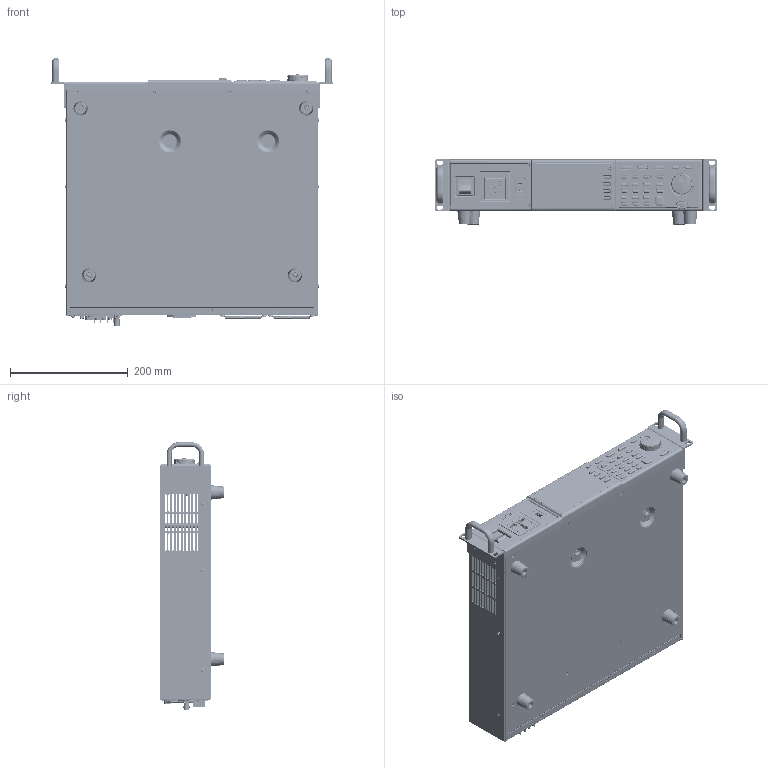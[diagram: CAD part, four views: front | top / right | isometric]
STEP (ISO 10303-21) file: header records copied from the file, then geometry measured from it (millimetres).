
FILE_DESCRIPTION((''),'2;1');
FILE_NAME('APS-500W_ASM','2019-03-26T16:59:05',('benny_chen'),(''),'CREO PARAMETRIC BY PTC INC, 2018100','CREO PARAMETRIC BY PTC INC, 2018100','');
FILE_SCHEMA(('CONFIG_CONTROL_DESIGN'));
Products named in the file (93): APS-500W_SKEL0001; APS-500W_SKEL0002; APS-1000W_FRONT_ASM_SKEL; ACSP-F-HP; S-M4-1_NUT; SO-M3-3L; SO-M3-4; SO-M3-S5; 62PS-7K0FP1B1-4_ASM; APS-HP-SOCKET_RG-02; 62PS-7K0FP2B1-2_ASM; 62PS-7K0FP1B1-3; APS-HP-SOCKET-BSF-R4_T1; 62PS-7K0FP1B1-2_ASM; 62PS-7K0FP1B1-1_ASM; LCD-PH-07008-002; APS-LCD-HOLD-3; 62PS-7K0HP301_ASM; 57RG-20B04001; 57RG-20B03901; APS-1000W_LCD_ASM_ASM; ENCODE_SW-NOBLE; APS-PCB-KEYBOARD_ASM; 3610-02000101-BSF-R4S-FRAME; 3610-02000101-BSF-R4S; 3610-02000101-GWT_ASM; APS-HP-A116-1229-USB01; 62PS-7K0HP101_ASM; FRP10; A116-1229-USB01; SCREW-4-40-8D3L; APS-USB-GND-HP_ASM; 3203-01200601; APS-F_ASM; APS-1000W_FRAME-A; TONGDING-5D5XM3X5L; 63FP-AG112801_ASM; 5005-350G0101; 57RB-40G11301; APS-1000W_MODEL_NP-A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
Assembly tree (180 placements, depth 6):
  APS-500W_ASM
    APS-500W_SKEL0001
    APS-500W_SKEL0002
    APS-1000W_FRONT_ASM_ASM
      APS-1000W_FRONT_ASM_SKEL
      APS-F_ASM
        62PS-7K0FP1B1-1_ASM
          62PS-7K0FP1B1-4_ASM
            ACSP-F-HP
            S-M4-1_NUT  x4
            SO-M3-3L  x2
            SO-M3-4  x10
            SO-M3-S5  x2
          62PS-7K0FP2B1-2_ASM
            APS-HP-SOCKET_RG-02
          62PS-7K0FP1B1-3
          62PS-7K0FP1B1-2_ASM
            APS-HP-SOCKET-BSF-R4_T1
        APS-1000W_LCD_ASM_ASM
          LCD-PH-07008-002
          62PS-7K0HP301_ASM
            APS-LCD-HOLD-3
          57RG-20B04001  x2
          57RG-20B03901  x2
        APS-PCB-KEYBOARD_ASM
          ENCODE_SW-NOBLE
        3610-02000101-GWT_ASM
          3610-02000101-BSF-R4S-FRAME
          3610-02000101-BSF-R4S
        APS-USB-GND-HP_ASM
          62PS-7K0HP101_ASM
            APS-HP-A116-1229-USB01
          FRP10  x2
          A116-1229-USB01
          SCREW-4-40-8D3L  x2
        3203-01200601
      63FP-AG112801_ASM
        APS-1000W_FRAME-A
        TONGDING-5D5XM3X5L  x8
      5005-350G0101
      57RB-40G11301
      APS-1000W_MODEL_NP-A
    APS-500W-LO-ASM_ASM
      62PS-705LO101-1_ASM
        62PS-705LO101-2_ASM
          APS-500W-HP-LO
          S-M4-1_NUT  x4
          FH-M4-12  x2
        62PS-710LO101-4
        62PS-705LO101-3_ASM
          62PS-705LO101-3
      APS7000-EMI_OUT_ASM
        APS-DT-66-C11W-XX_3PIN
      APS-PCB-ANALOG_ASM
        RJ-45
        BNC-PCBTYPE-M
        CONNECTOR_A-DIO-FS03
        ECH350RM-04P
      61PF-084220N1  x2
      APS-SCREW-M8XP1D25X80L  x2
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Bounding box: 479.4 x 110.44 x 454.7 mm (x, y, z)
Volume: 1225785.6 mm3; surface area: 1673031.8 mm2
Topology: 162 solids, 187 shells, 13899 faces, 35130 edges, 21991 vertices
Faces by surface type: plane 7031, cylinder 3636, bspline 1406, cone 1061, torus 517, extrusion 141, sphere 106, revolution 1
Entity records: 313419 total; most frequent: CARTESIAN_POINT 92375, ORIENTED_EDGE 45662, DIRECTION 45242, EDGE_CURVE 22906, AXIS2_PLACEMENT_3D 15653, VERTEX_POINT 14433, VECTOR 13935, LINE 13794
